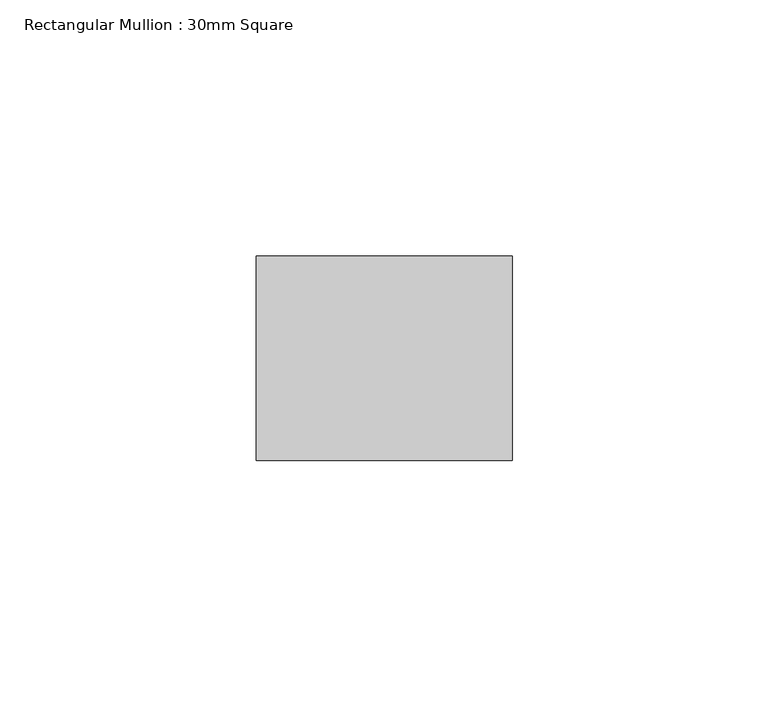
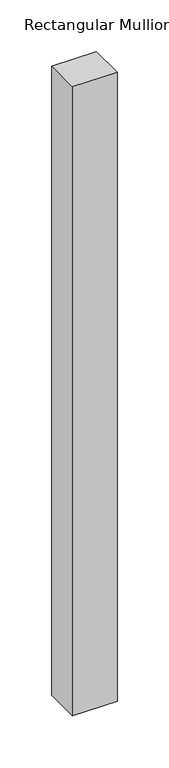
"""IFC4 building model written with IfcOpenShell, lengths in millimetres: member geometry, Rectangular Mullion : 30mm Square."""

from ifc_helpers import new_model, si_unit, frame, origin, place, context, project, spatial, polyline, outline, extrude, source, transform, mapped, element, save


def rectangular_mullion_30mm_square_9d930069(model_context):
    return source(origin(), model_context, "Body", "SweptSolid", [
        extrude(outline(polyline([(25.0, 20.0), (25.0, -20.0), (-25.0, -20.0), (-25.0, 20.0), (25.0, 20.0)])), frame((0.0, 0.0, -743.8730163), z_axis=(0.0, 0.0, 1.0), x_axis=(1.0, 0.0, 0.0)), (0.0, 0.0, 1.0), 743.8730163),
    ])


if __name__ == "__main__":
    model = new_model("IFC4")
    model_context = context("Model", 3, world=origin())
    ifc_project = project(units=[si_unit("LENGTHUNIT", "METRE", prefix="MILLI")], contexts=[model_context])
    site = spatial("IfcSite", under=ifc_project)
    building = spatial("IfcBuilding", under=site)
    placement = place(None, origin())
    rectangular_mullion_30mm_square_shape = rectangular_mullion_30mm_square_9d930069(model_context)
    element("IfcMember", 1, ObjectType="Rectangular Mullion : 30mm Square", at=placement, inside=building, context=model_context, shape_type="MappedRepresentation", body=[
        mapped(rectangular_mullion_30mm_square_shape, transform((0.0, 0.0, 0.0), x_axis=(1.0, 0.0, 0.0), y_axis=(0.0, 1.0, 0.0), z_axis=(0.0, 0.0, 1.0))),
    ])
    save(model, "model.ifc")
